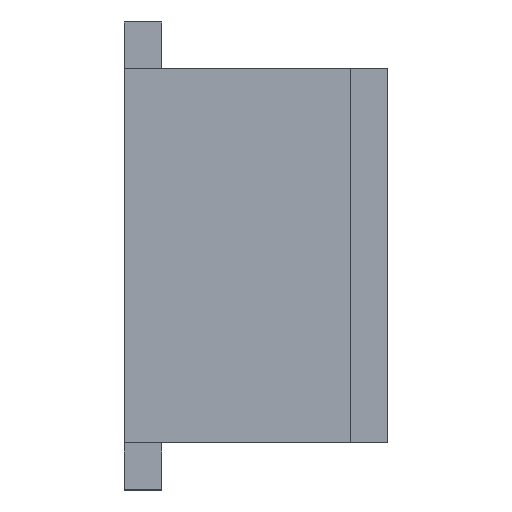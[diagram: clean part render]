
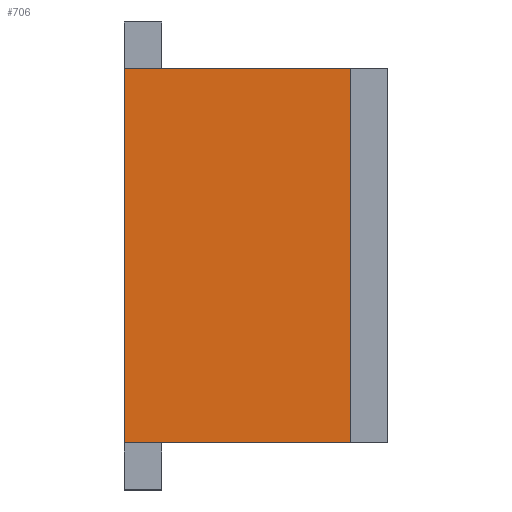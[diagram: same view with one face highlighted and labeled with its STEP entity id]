
A CAD part, top view. The second image highlights one B-rep face of the part: STEP entity #706.
In plain terms, the highlighted planar face has unit normal (0, 0, 1).
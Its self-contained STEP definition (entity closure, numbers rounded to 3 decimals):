
#33 = DIRECTION ( 'NONE',  ( -1., 0., 0. ) ) ;
#34 = VECTOR ( 'NONE', #33, 1000. ) ;
#35 = CARTESIAN_POINT ( 'NONE',  ( 1.2, 6., 10.2 ) ) ;
#36 = LINE ( 'NONE', #35, #34 ) ;
#110 = PLANE ( 'NONE',  #160 ) ;
#132 = DIRECTION ( 'NONE',  ( -1., 0., 0. ) ) ;
#133 = DIRECTION ( 'NONE',  ( 0., 0., -1. ) ) ;
#134 = CARTESIAN_POINT ( 'NONE',  ( 1.2, 6., 10.2 ) ) ;
#147 = CARTESIAN_POINT ( 'NONE',  ( 0., -6., 10.2 ) ) ;
#156 = FACE_OUTER_BOUND ( 'NONE', #738, .T. ) ;
#158 = CARTESIAN_POINT ( 'NONE',  ( 7.25, 6., 10.2 ) ) ;
#159 = LINE ( 'NONE', #158, #169 ) ;
#160 = AXIS2_PLACEMENT_3D ( 'NONE', #134, #133, #132 ) ;
#168 = DIRECTION ( 'NONE',  ( 0., 1., 0. ) ) ;
#169 = VECTOR ( 'NONE', #168, 1000. ) ;
#189 = DIRECTION ( 'NONE',  ( 0., -1., 0. ) ) ;
#190 = VECTOR ( 'NONE', #189, 1000. ) ;
#191 = CARTESIAN_POINT ( 'NONE',  ( 0., 6., 10.2 ) ) ;
#240 = LINE ( 'NONE', #191, #190 ) ;
#241 = DIRECTION ( 'NONE',  ( -1., 0., 0. ) ) ;
#242 = VECTOR ( 'NONE', #241, 1000. ) ;
#243 = CARTESIAN_POINT ( 'NONE',  ( 1.2, -6., 10.2 ) ) ;
#244 = LINE ( 'NONE', #243, #242 ) ;
#252 = CARTESIAN_POINT ( 'NONE',  ( 7.25, -6., 10.2 ) ) ;
#257 = CARTESIAN_POINT ( 'NONE',  ( 7.25, 6., 10.2 ) ) ;
#263 = CARTESIAN_POINT ( 'NONE',  ( 0., 6., 10.2 ) ) ;
#687 = EDGE_CURVE ( 'NONE', #728, #732, #36, .T. ) ;
#697 = ORIENTED_EDGE ( 'NONE', *, *, #701, .T. ) ;
#698 = ORIENTED_EDGE ( 'NONE', *, *, #737, .F. ) ;
#701 = EDGE_CURVE ( 'NONE', #734, #728, #159, .T. ) ;
#706 = ADVANCED_FACE ( 'NONE', ( #156 ), #110, .F. ) ;
#710 = ORIENTED_EDGE ( 'NONE', *, *, #751, .T. ) ;
#711 = ORIENTED_EDGE ( 'NONE', *, *, #687, .T. ) ;
#723 = VERTEX_POINT ( 'NONE', #147 ) ;
#728 = VERTEX_POINT ( 'NONE', #257 ) ;
#732 = VERTEX_POINT ( 'NONE', #263 ) ;
#734 = VERTEX_POINT ( 'NONE', #252 ) ;
#737 = EDGE_CURVE ( 'NONE', #734, #723, #244, .T. ) ;
#738 = EDGE_LOOP ( 'NONE', ( #710, #698, #697, #711 ) ) ;
#751 = EDGE_CURVE ( 'NONE', #732, #723, #240, .T. ) ;
